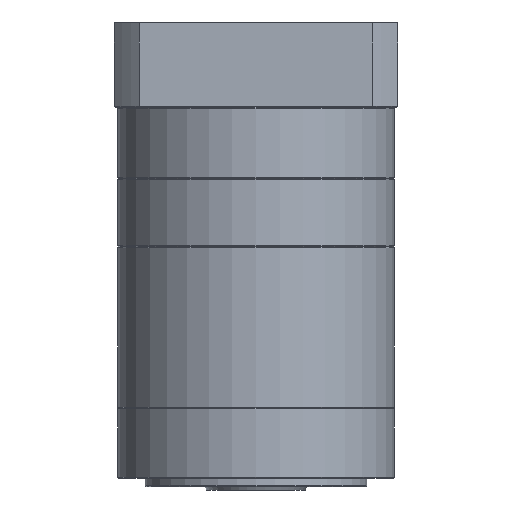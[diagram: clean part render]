
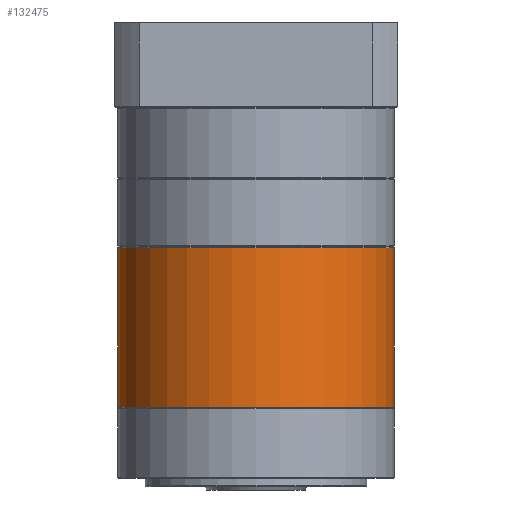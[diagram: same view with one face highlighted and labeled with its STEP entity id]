
A CAD part, front view. The second image highlights one B-rep face of the part: STEP entity #132475.
In plain terms, the highlighted cylindrical face has radius 81 mm (diameter 162 mm), a partial arc.
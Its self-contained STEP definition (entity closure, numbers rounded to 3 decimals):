
#5534 = CYLINDRICAL_SURFACE ( 'NONE', #115961, 81. ) ;
#7675 = VECTOR ( 'NONE', #93735, 1000. ) ;
#8300 = AXIS2_PLACEMENT_3D ( 'NONE', #10885, #103539, #33905 ) ;
#10885 = CARTESIAN_POINT ( 'NONE',  ( -123.744, 111.753, -74.75 ) ) ;
#11510 = VERTEX_POINT ( 'NONE', #39993 ) ;
#16212 = LINE ( 'NONE', #35538, #127429 ) ;
#18793 = CARTESIAN_POINT ( 'NONE',  ( -204.744, 111.753, -74.75 ) ) ;
#21272 = CARTESIAN_POINT ( 'NONE',  ( -204.744, 111.753, -168.25 ) ) ;
#24148 = CIRCLE ( 'NONE', #8300, 81. ) ;
#30413 = ORIENTED_EDGE ( 'NONE', *, *, #60918, .T. ) ;
#33905 = DIRECTION ( 'NONE',  ( -1., 0., 0. ) ) ;
#34365 = CARTESIAN_POINT ( 'NONE',  ( -123.744, 111.753, -74.25 ) ) ;
#34855 = EDGE_CURVE ( 'NONE', #141211, #84439, #146161, .T. ) ;
#35052 = EDGE_CURVE ( 'NONE', #11510, #65055, #24148, .T. ) ;
#35538 = CARTESIAN_POINT ( 'NONE',  ( -42.744, 111.753, -74.25 ) ) ;
#39993 = CARTESIAN_POINT ( 'NONE',  ( -42.744, 111.753, -74.75 ) ) ;
#41753 = LINE ( 'NONE', #80205, #7675 ) ;
#43963 = DIRECTION ( 'NONE',  ( -1., 0., 0. ) ) ;
#46872 = DIRECTION ( 'NONE',  ( -1., 0., 0. ) ) ;
#60918 = EDGE_CURVE ( 'NONE', #65055, #141211, #41753, .T. ) ;
#65055 = VERTEX_POINT ( 'NONE', #18793 ) ;
#80205 = CARTESIAN_POINT ( 'NONE',  ( -204.744, 111.753, -74.25 ) ) ;
#80817 = ORIENTED_EDGE ( 'NONE', *, *, #34855, .T. ) ;
#80865 = DIRECTION ( 'NONE',  ( 0., 0., -1. ) ) ;
#82791 = ORIENTED_EDGE ( 'NONE', *, *, #35052, .T. ) ;
#83472 = EDGE_CURVE ( 'NONE', #11510, #84439, #16212, .T. ) ;
#84439 = VERTEX_POINT ( 'NONE', #147639 ) ;
#89013 = DIRECTION ( 'NONE',  ( 0., 0., 1. ) ) ;
#93735 = DIRECTION ( 'NONE',  ( 0., 0., -1. ) ) ;
#103539 = DIRECTION ( 'NONE',  ( 0., 0., -1. ) ) ;
#104005 = EDGE_LOOP ( 'NONE', ( #141313, #82791, #30413, #80817 ) ) ;
#115961 = AXIS2_PLACEMENT_3D ( 'NONE', #34365, #80865, #46872 ) ;
#123603 = AXIS2_PLACEMENT_3D ( 'NONE', #146651, #89013, #43963 ) ;
#127429 = VECTOR ( 'NONE', #140198, 1000. ) ;
#129356 = FACE_OUTER_BOUND ( 'NONE', #104005, .T. ) ;
#132475 = ADVANCED_FACE ( 'NONE', ( #129356 ), #5534, .T. ) ;
#140198 = DIRECTION ( 'NONE',  ( 0., 0., -1. ) ) ;
#141211 = VERTEX_POINT ( 'NONE', #21272 ) ;
#141313 = ORIENTED_EDGE ( 'NONE', *, *, #83472, .F. ) ;
#146161 = CIRCLE ( 'NONE', #123603, 81. ) ;
#146651 = CARTESIAN_POINT ( 'NONE',  ( -123.744, 111.753, -168.25 ) ) ;
#147639 = CARTESIAN_POINT ( 'NONE',  ( -42.744, 111.753, -168.25 ) ) ;
